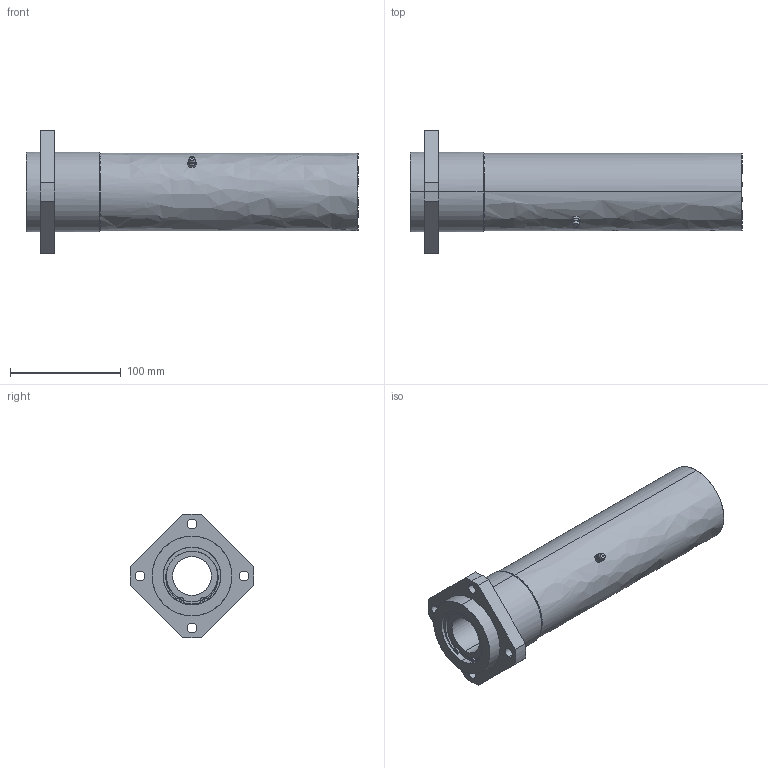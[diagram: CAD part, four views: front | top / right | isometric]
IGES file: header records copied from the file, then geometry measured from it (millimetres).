
Global section: file name: No Iges File Name specified; native system: AutoDesk Inventor R10; preprocessor: AutoDesk Inventor Iges Exporter R10; author: No Author specified; organization: No Organization specified; date: 20101214.141435; units: millimetre
Bounding box: 300 x 111.86 x 112 mm (x, y, z)
Surface area: 126210.1 mm2 (no closed solid volume)
Topology: 0 solids, 0 shells, 162 faces, 1128 edges, 1126 vertices
Faces by surface type: bspline 162
